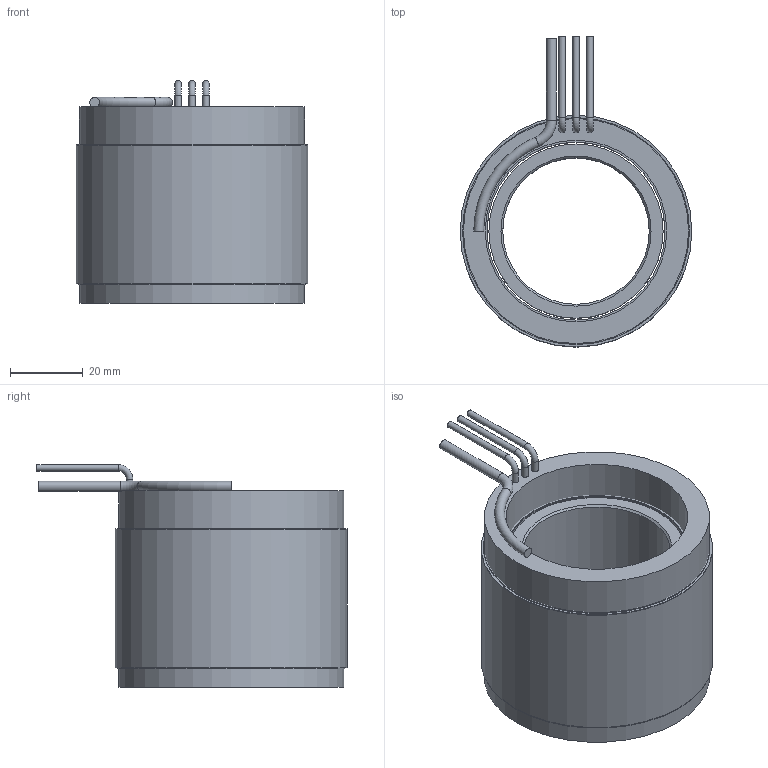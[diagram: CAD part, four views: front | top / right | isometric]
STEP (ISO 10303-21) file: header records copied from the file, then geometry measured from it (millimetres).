
FILE_DESCRIPTION (( 'STEP AP214' ), '1' );
FILE_NAME ('6100391-05.STEP', '2020-12-15T02:41:46', ( '' ), ( '' ), 'SwSTEP 2.0', 'SolidWorks 2016', '' );
FILE_SCHEMA (( 'AUTOMOTIVE_DESIGN' ));
Length unit declared in the file: inch
Products named in the file (10): 4500558-XX_4500558-05; 4150178-XX_4150178-05; COMP4500558-XX(COIL)_COMP4500558-05(COIL); 4250379-XX_4250379-05; 6100391-05; 4400101-00; 4600565-00; 4450189-XX_4450189-05
Assembly tree (10 placements, depth 4):
  6100391-05
    4250379-XX_4250379-05
      4150178-XX_4150178-05
    4500558-XX_4500558-05
      4450189-XX_4450189-05
        4450189-XX_4450189-05
        4400101-00
        4400101-00
        4600565-00  x2
      COMP4500558-XX(COIL)_COMP4500558-05(COIL)
Bounding box: 63.5 x 84.96 x 61.09 mm (x, y, z)
Volume: 126974.3 mm3; surface area: 59595.4 mm2
Topology: 8 solids, 8 shells, 47 faces, 74 edges, 46 vertices
Faces by surface type: cylinder 21, plane 19, torus 5, cone 2
Full cylindrical faces by diameter (mm): 1.778 x6, 2.72 x1, 40.132 x1, 47.752 x1, 48.768 x5, 49.783 x1, 61.722 x1, 62.23 x2, 63.5 x3
Entity records: 1305 total; most frequent: DIRECTION 202, CARTESIAN_POINT 143, AXIS2_PLACEMENT_3D 101, ORIENTED_EDGE 84, EDGE_LOOP 84, FACE_OUTER_BOUND 67, ADVANCED_FACE 43, EDGE_CURVE 42
